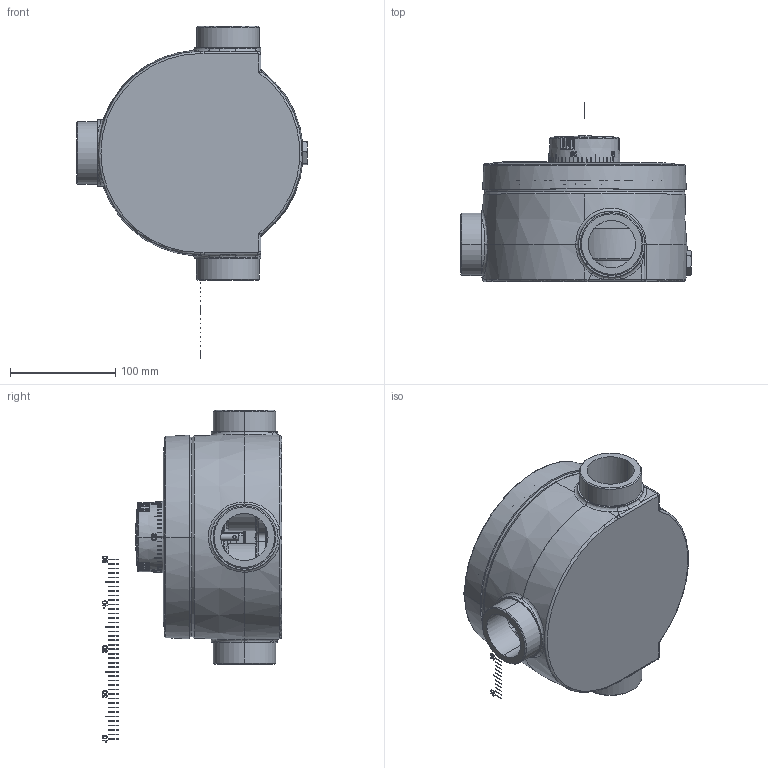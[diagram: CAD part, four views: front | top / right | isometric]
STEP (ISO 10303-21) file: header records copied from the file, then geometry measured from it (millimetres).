
FILE_DESCRIPTION (( 'STEP AP214' ), '1' );
FILE_NAME ('22TX96E.STEP', '2017-12-19T08:37:36', ( '' ), ( '' ), 'SwSTEP 2.0', 'SolidWorks 2017', '' );
FILE_SCHEMA (( 'AUTOMOTIVE_DESIGN' ));
Length unit declared in the file: millimetre
Products named in the file (40): 22100720; 22014733; 22029601; 22100382; 22TX96E; 22019680; 22108024GR; 22108607; 22108019; 22108605; 22108014GR; 22108608; 22108650; 22113421; 22100037; 22108332; 22080600_enveloppe; 22108632; 22108637; 22100317_22100317N; 22015700; 22100020_22100020; 22108510; 22108647; 22108328; 22100347; 220292236; 22113705U; 22108228; 22018973; 22108004U; 22014888; 22108002; 22012562; 22108001; 22014081; 22108000_22108000; 22110600_22110600; 22108612; 22108611_22108611
Assembly tree (58 placements, depth 5):
  22TX96E
    22108611_22108611
    22080600_enveloppe
      22110600_22110600
      22014081  x4
      22012562  x2
      22014888  x2
      22018973  x2
      22029601
        22113705U
        22100347
        22108647
        22100020_22100020
        22100317_22100317N
        22108632  x2
        22108332  x2
        22019680
          22113421
          22108608
          22108605
          22108607
      22100720  x2
      22108612  x3
      220292236
        22108000_22108000
        22108001
        22108002
        22108004U
        22108228
        22014081
      22108328  x2
      22108510
      22015700
      22108637
    22100037  x6
    22108650
    22108014GR
    22108019  x2
    22108024GR
    22100382
    22014733
Bounding box: 219.9 x 170.8 x 316.11 mm (x, y, z)
Volume: 1356600 mm3; surface area: 552258.9 mm2
Topology: 109 solids, 109 shells, 3457 faces, 8575 edges, 5296 vertices
Faces by surface type: plane 1315, cylinder 641, bspline 631, cone 501, torus 267, sphere 102
Entity records: 152651 total; most frequent: CARTESIAN_POINT 72580, ORIENTED_EDGE 16114, DIRECTION 13164, EDGE_CURVE 8057, AXIS2_PLACEMENT_3D 5095, VERTEX_POINT 5039, EDGE_LOOP 3524, ADVANCED_FACE 3259
